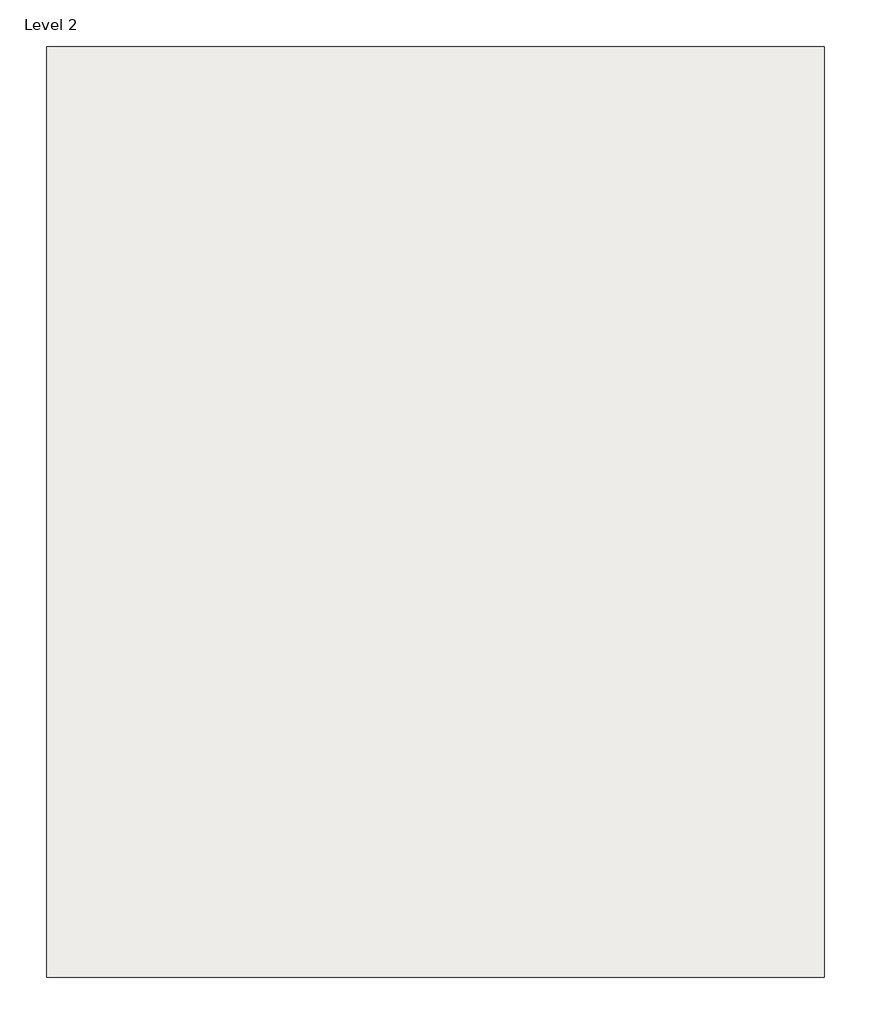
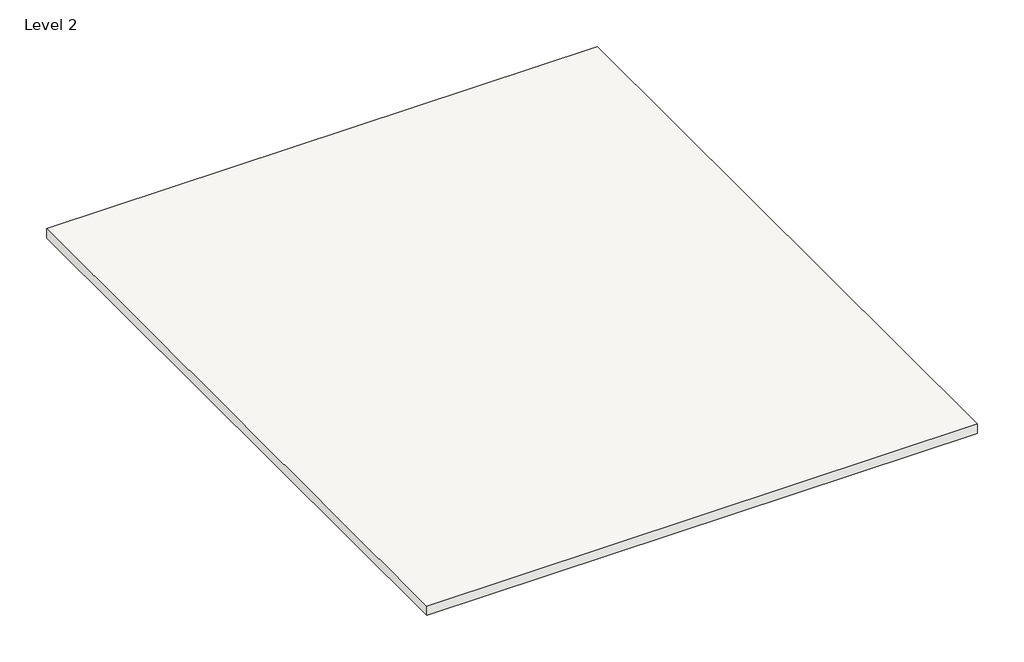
# One storey: 1 roof.
"""IFC4 building model written with IfcOpenShell, lengths in millimetres."""

from ifc_helpers import new_model, si_unit, frame, origin, place, context, project, spatial, polyline, outline, extrude, element, save

model = new_model("IFC4")

# Units and contexts
model_context = context("Model", 3, world=origin())
ifc_project = project(units=[si_unit("LENGTHUNIT", "METRE", prefix="MILLI")], contexts=[model_context])

# Site, building, storey
site = spatial("IfcSite", under=ifc_project)
building = spatial("IfcBuilding", under=site)
storey = spatial("IfcBuildingStorey", under=building, Name="Level 2", Elevation=4572.0)

# Roof
placement = place(None, origin())
element("IfcRoof", 1, ObjectType="Steel Truss - Insulation on Metal Deck - EPDM", at=placement, inside=storey, context=model_context, shape_type="SweptSolid", body=[
    extrude(outline(polyline([(-15437.7474435, 17721.0425957), (15537.5525565, 17721.0425957), (15537.5525565, -19350.2574043), (-15437.7474435, -19350.2574043), (-15437.7474435, 17721.0425957)])), frame((0.0, 0.0, 4572.0), z_axis=(0.0, 0.0, 1.0), x_axis=(1.0, 0.0, 0.0)), (0.0, 0.0, 1.0), 546.1),
])

save(model, "model.ifc")
